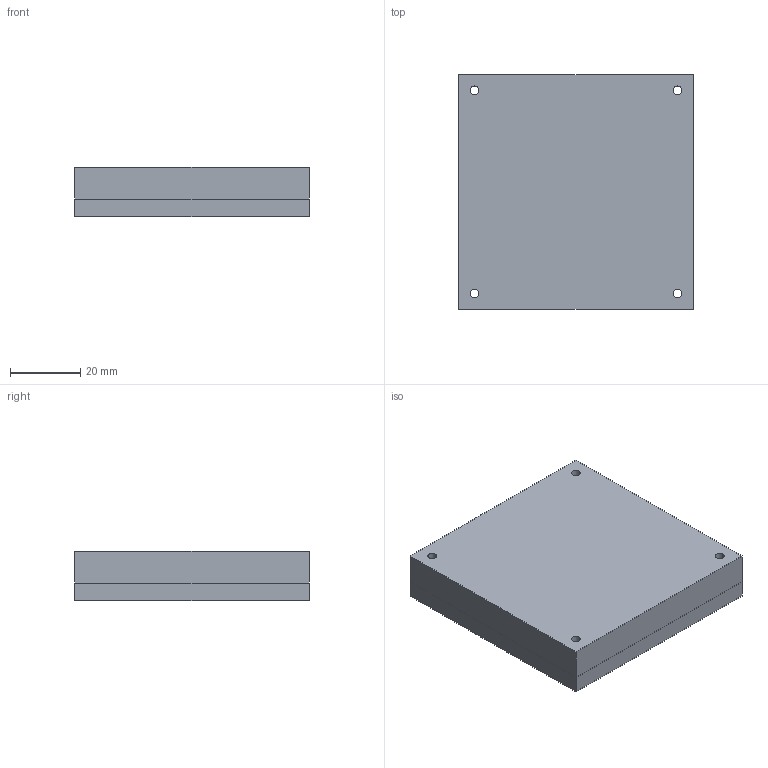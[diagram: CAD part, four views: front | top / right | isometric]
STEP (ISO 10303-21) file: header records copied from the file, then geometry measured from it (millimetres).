
FILE_DESCRIPTION (( 'STEP AP203' ), '1' );
FILE_NAME ('Dreheinheit dL50.STEP', '2004-10-26T07:14:03', ( '' ), ( '' ), 'SwSTEP 2.0', 'SolidWorks 2004073', '' );
FILE_SCHEMA (( 'CONFIG_CONTROL_DESIGN' ));
Length unit declared in the file: millimetre
Products named in the file (1): Dreheinheit dL50
Bounding box: 67 x 67 x 14 mm (x, y, z)
Volume: 62571.1 mm3; surface area: 13130.6 mm2
Topology: 1 solids, 1 shells, 18 faces, 44 edges, 28 vertices
Faces by surface type: plane 10, cylinder 8
Entity records: 625 total; most frequent: DIRECTION 98, CARTESIAN_POINT 91, ORIENTED_EDGE 88, EDGE_CURVE 44, AXIS2_PLACEMENT_3D 35, VERTEX_POINT 28, LINE 28, VECTOR 28
